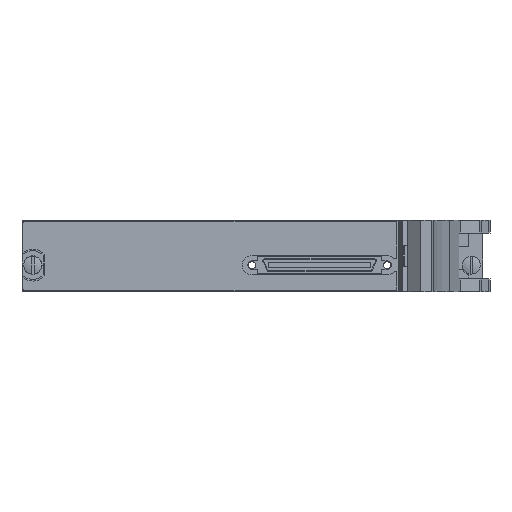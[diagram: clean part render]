
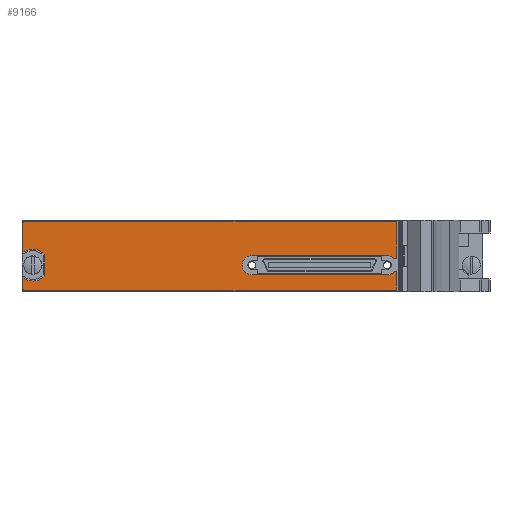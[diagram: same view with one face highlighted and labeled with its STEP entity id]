
A CAD part, left-side view. The second image highlights one B-rep face of the part: STEP entity #9166.
In plain terms, the highlighted planar face has unit normal (-1, 0, 0).
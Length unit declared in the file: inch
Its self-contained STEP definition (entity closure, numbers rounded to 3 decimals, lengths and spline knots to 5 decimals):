
#2916=CARTESIAN_POINT('',(-0.215,-3.543,0.11025));
#2917=DIRECTION('',(-1.,0.,0.));
#2918=DIRECTION('',(0.,-1.,0.));
#2919=AXIS2_PLACEMENT_3D('',#2916,#2917,#2918);
#2921=DIRECTION('',(0.,0.,1.));
#2922=VECTOR('',#2921,0.17325);
#2923=CARTESIAN_POINT('',(-0.215,-3.563,-0.063));
#2924=LINE('',#2923,#2922);
#2925=CARTESIAN_POINT('',(-0.215,-3.543,-0.063));
#2926=DIRECTION('',(-1.,0.,0.));
#2927=DIRECTION('',(0.,0.,-1.));
#2928=AXIS2_PLACEMENT_3D('',#2925,#2926,#2927);
#2930=DIRECTION('',(0.,-1.,0.));
#2931=VECTOR('',#2930,4.07);
#2932=CARTESIAN_POINT('',(-0.215,0.527,-0.083));
#2933=LINE('',#2932,#2931);
#2934=CARTESIAN_POINT('',(-0.215,0.527,-0.063));
#2935=DIRECTION('',(-1.,0.,0.));
#2936=DIRECTION('',(0.,1.,0.));
#2937=AXIS2_PLACEMENT_3D('',#2934,#2935,#2936);
#2939=DIRECTION('',(0.,0.,-1.));
#2940=VECTOR('',#2939,0.1263);
#2941=CARTESIAN_POINT('',(-0.215,0.547,0.0633));
#2942=LINE('',#2941,#2940);
#2943=CARTESIAN_POINT('',(-0.215,0.439,0.201));
#2944=DIRECTION('',(1.,0.,0.));
#2945=DIRECTION('',(0.,-0.76,-0.65));
#2946=AXIS2_PLACEMENT_3D('',#2943,#2944,#2945);
#2948=DIRECTION('',(0.,0.,-1.));
#2949=VECTOR('',#2948,0.22747);
#2950=CARTESIAN_POINT('',(-0.215,0.306,0.31474));
#2951=LINE('',#2950,#2949);
#2952=CARTESIAN_POINT('',(-0.215,0.439,0.201));
#2953=DIRECTION('',(1.,0.,0.));
#2954=DIRECTION('',(0.,0.617,0.787));
#2955=AXIS2_PLACEMENT_3D('',#2952,#2953,#2954);
#2957=DIRECTION('',(0.,0.,-1.));
#2958=VECTOR('',#2957,0.3263);
#2959=CARTESIAN_POINT('',(-0.215,0.547,0.665));
#2960=LINE('',#2959,#2958);
#2961=CARTESIAN_POINT('',(-0.215,0.527,0.665));
#2962=DIRECTION('',(-1.,0.,0.));
#2963=DIRECTION('',(0.,0.,1.));
#2964=AXIS2_PLACEMENT_3D('',#2961,#2962,#2963);
#2966=DIRECTION('',(0.,1.,0.));
#2967=VECTOR('',#2966,4.07);
#2968=CARTESIAN_POINT('',(-0.215,-3.543,0.685));
#2969=LINE('',#2968,#2967);
#2970=CARTESIAN_POINT('',(-0.215,-3.543,0.665));
#2971=DIRECTION('',(-1.,0.,0.));
#2972=DIRECTION('',(0.,-1.,0.));
#2973=AXIS2_PLACEMENT_3D('',#2970,#2971,#2972);
#2975=DIRECTION('',(0.,0.,1.));
#2976=VECTOR('',#2975,0.37566);
#2977=CARTESIAN_POINT('',(-0.215,-3.563,0.28934));
#2978=LINE('',#2977,#2976);
#2979=CARTESIAN_POINT('',(-0.215,-3.543,0.28934));
#2980=DIRECTION('',(-1.,0.,0.));
#2981=DIRECTION('',(0.,0.704,-0.711));
#2982=AXIS2_PLACEMENT_3D('',#2979,#2980,#2981);
#2984=CARTESIAN_POINT('',(-0.215,-3.45436,0.1998));
#2985=DIRECTION('',(-1.,0.,0.));
#2986=DIRECTION('',(0.,-0.704,0.711));
#2987=AXIS2_PLACEMENT_3D('',#2984,#2985,#2986);
#2989=DIRECTION('',(0.,1.,0.));
#2990=VECTOR('',#2989,1.48403);
#2991=CARTESIAN_POINT('',(-0.215,-3.45436,0.3058));
#2992=LINE('',#2991,#2990);
#2993=CARTESIAN_POINT('',(-0.215,-1.97032,0.1998));
#2994=DIRECTION('',(-1.,0.,0.));
#2995=DIRECTION('',(0.,0.,1.));
#2996=AXIS2_PLACEMENT_3D('',#2993,#2994,#2995);
#2998=DIRECTION('',(0.,-1.,0.));
#2999=VECTOR('',#2998,1.48403);
#3000=CARTESIAN_POINT('',(-0.215,-1.97032,0.0938));
#3001=LINE('',#3000,#2999);
#3002=CARTESIAN_POINT('',(-0.215,-3.45436,0.1998));
#3003=DIRECTION('',(-1.,0.,0.));
#3004=DIRECTION('',(0.,0.,-1.));
#3005=AXIS2_PLACEMENT_3D('',#3002,#3003,#3004);
#5077=CARTESIAN_POINT('',(-0.215,0.527,0.685));
#5078=CARTESIAN_POINT('',(-0.215,0.547,0.665));
#5079=VERTEX_POINT('',#5077);
#5080=VERTEX_POINT('',#5078);
#5081=CARTESIAN_POINT('',(-0.215,0.547,0.3387));
#5082=VERTEX_POINT('',#5081);
#5083=CARTESIAN_POINT('',(-0.215,0.306,0.31474));
#5084=VERTEX_POINT('',#5083);
#5085=CARTESIAN_POINT('',(-0.215,0.306,0.08726));
#5086=VERTEX_POINT('',#5085);
#5087=CARTESIAN_POINT('',(-0.215,0.547,0.0633));
#5088=VERTEX_POINT('',#5087);
#5089=CARTESIAN_POINT('',(-0.215,0.547,-0.063));
#5090=VERTEX_POINT('',#5089);
#5091=CARTESIAN_POINT('',(-0.215,0.527,-0.083));
#5092=VERTEX_POINT('',#5091);
#5093=CARTESIAN_POINT('',(-0.215,-3.543,-0.083));
#5094=VERTEX_POINT('',#5093);
#5095=CARTESIAN_POINT('',(-0.215,-3.563,-0.063));
#5096=VERTEX_POINT('',#5095);
#5097=CARTESIAN_POINT('',(-0.215,-3.563,0.665));
#5098=CARTESIAN_POINT('',(-0.215,-3.543,0.685));
#5099=VERTEX_POINT('',#5097);
#5100=VERTEX_POINT('',#5098);
#5101=CARTESIAN_POINT('',(-0.215,-1.97032,0.3058));
#5102=CARTESIAN_POINT('',(-0.215,-1.97032,0.0938));
#5103=VERTEX_POINT('',#5101);
#5104=VERTEX_POINT('',#5102);
#5105=CARTESIAN_POINT('',(-0.215,-3.45436,0.0938));
#5106=VERTEX_POINT('',#5105);
#5107=CARTESIAN_POINT('',(-0.215,-3.45436,0.3058));
#5108=VERTEX_POINT('',#5107);
#5109=CARTESIAN_POINT('',(-0.215,-3.563,0.11025));
#5110=CARTESIAN_POINT('',(-0.215,-3.52893,0.12446));
#5111=VERTEX_POINT('',#5109);
#5112=VERTEX_POINT('',#5110);
#5113=CARTESIAN_POINT('',(-0.215,-3.52893,0.27513));
#5114=CARTESIAN_POINT('',(-0.215,-3.563,0.28934));
#5115=VERTEX_POINT('',#5113);
#5116=VERTEX_POINT('',#5114);
#9139=CARTESIAN_POINT('',(-0.215,0.439,0.201));
#9140=DIRECTION('',(-1.,0.,0.));
#9141=DIRECTION('',(0.,0.,1.));
#9142=AXIS2_PLACEMENT_3D('',#9139,#9140,#9141);
#9143=PLANE('',#9142);
#9144=ORIENTED_EDGE('',*,*,#9008,.F.);
#9145=ORIENTED_EDGE('',*,*,#9022,.F.);
#9146=ORIENTED_EDGE('',*,*,#9036,.F.);
#9147=ORIENTED_EDGE('',*,*,#9050,.F.);
#9148=ORIENTED_EDGE('',*,*,#9064,.F.);
#9149=ORIENTED_EDGE('',*,*,#9078,.F.);
#9150=ORIENTED_EDGE('',*,*,#9092,.F.);
#9151=ORIENTED_EDGE('',*,*,#9106,.F.);
#9152=ORIENTED_EDGE('',*,*,#9120,.F.);
#9153=ORIENTED_EDGE('',*,*,#9133,.F.);
#9154=ORIENTED_EDGE('',*,*,#8867,.F.);
#9155=ORIENTED_EDGE('',*,*,#8882,.F.);
#9156=ORIENTED_EDGE('',*,*,#8896,.F.);
#9157=ORIENTED_EDGE('',*,*,#8910,.F.);
#9158=ORIENTED_EDGE('',*,*,#8924,.F.);
#9159=ORIENTED_EDGE('',*,*,#8938,.T.);
#9160=ORIENTED_EDGE('',*,*,#8952,.T.);
#9161=ORIENTED_EDGE('',*,*,#8966,.T.);
#9162=ORIENTED_EDGE('',*,*,#8980,.T.);
#9163=ORIENTED_EDGE('',*,*,#8994,.T.);
#9164=EDGE_LOOP('',(#9144,#9145,#9146,#9147,#9148,#9149,#9150,#9151,#9152,#9153,
#9154,#9155,#9156,#9157,#9158,#9159,#9160,#9161,#9162,#9163));
#9165=FACE_OUTER_BOUND('',#9164,.F.);
#9166=ADVANCED_FACE('',(#9165),#9143,.T.);
#2920=CIRCLE('',#2919,0.02);
#2929=CIRCLE('',#2928,0.02);
#2938=CIRCLE('',#2937,0.02);
#2947=CIRCLE('',#2946,0.175);
#2956=CIRCLE('',#2955,0.175);
#2965=CIRCLE('',#2964,0.02);
#2974=CIRCLE('',#2973,0.02);
#2983=CIRCLE('',#2982,0.02);
#2988=CIRCLE('',#2987,0.106);
#2997=CIRCLE('',#2996,0.106);
#3006=CIRCLE('',#3005,0.106);
#8867=EDGE_CURVE('',#5079,#5080,#2965,.T.);
#8882=EDGE_CURVE('',#5100,#5079,#2969,.T.);
#8896=EDGE_CURVE('',#5099,#5100,#2974,.T.);
#8910=EDGE_CURVE('',#5116,#5099,#2978,.T.);
#8924=EDGE_CURVE('',#5115,#5116,#2983,.T.);
#8938=EDGE_CURVE('',#5115,#5108,#2988,.T.);
#8952=EDGE_CURVE('',#5108,#5103,#2992,.T.);
#8966=EDGE_CURVE('',#5103,#5104,#2997,.T.);
#8980=EDGE_CURVE('',#5104,#5106,#3001,.T.);
#8994=EDGE_CURVE('',#5106,#5112,#3006,.T.);
#9008=EDGE_CURVE('',#5111,#5112,#2920,.T.);
#9022=EDGE_CURVE('',#5096,#5111,#2924,.T.);
#9036=EDGE_CURVE('',#5094,#5096,#2929,.T.);
#9050=EDGE_CURVE('',#5092,#5094,#2933,.T.);
#9064=EDGE_CURVE('',#5090,#5092,#2938,.T.);
#9078=EDGE_CURVE('',#5088,#5090,#2942,.T.);
#9092=EDGE_CURVE('',#5086,#5088,#2947,.T.);
#9106=EDGE_CURVE('',#5084,#5086,#2951,.T.);
#9120=EDGE_CURVE('',#5082,#5084,#2956,.T.);
#9133=EDGE_CURVE('',#5080,#5082,#2960,.T.);
